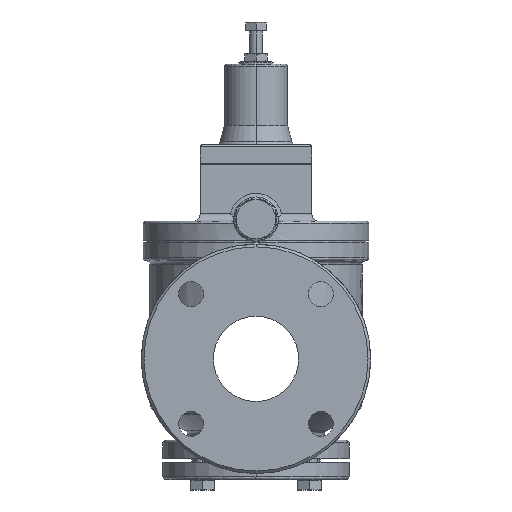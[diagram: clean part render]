
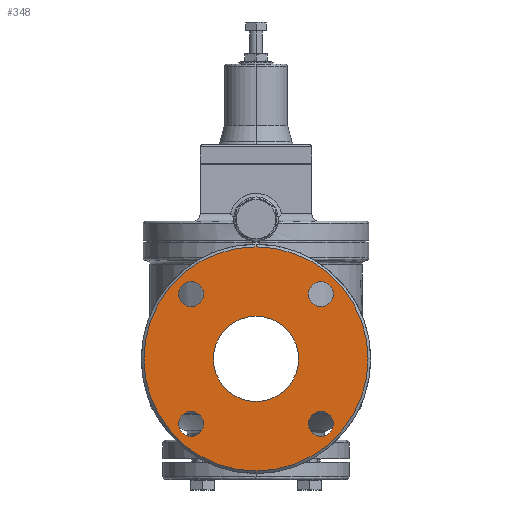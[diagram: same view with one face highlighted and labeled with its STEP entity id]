
A CAD part, left-side view. The second image highlights one B-rep face of the part: STEP entity #348.
In plain terms, the highlighted planar face has unit normal (-1, 0, 0).
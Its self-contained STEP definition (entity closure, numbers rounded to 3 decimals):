
#348=ADVANCED_FACE('',(#1601,#1602,#1603,#1604,#1605,#1606),#1600,.F.);
#1600=PLANE('',#5204);
#1601=FACE_OUTER_BOUND('',#5205,.T.);
#1602=FACE_BOUND('',#5206,.T.);
#1603=FACE_BOUND('',#5207,.T.);
#1604=FACE_BOUND('',#5208,.T.);
#1605=FACE_BOUND('',#5209,.T.);
#1606=FACE_BOUND('',#5210,.T.);
#5201=CARTESIAN_POINT('',(-345.221,-158.09,-107.85));
#5202=DIRECTION('',(1.,0.,0.));
#5203=DIRECTION('',(0.,0.,-1.));
#5204=AXIS2_PLACEMENT_3D('',#5201,#5202,#5203);
#5205=EDGE_LOOP('',(#8285,#8286));
#5206=EDGE_LOOP('',(#8287,#8288));
#5207=EDGE_LOOP('',(#8289,#8290));
#5208=EDGE_LOOP('',(#8291,#8292));
#5209=EDGE_LOOP('',(#8293,#8294));
#5210=EDGE_LOOP('',(#8295,#8296));
#8285=ORIENTED_EDGE('',*,*,#9944,.T.);
#8286=ORIENTED_EDGE('',*,*,#9945,.T.);
#8287=ORIENTED_EDGE('',*,*,#9946,.T.);
#8288=ORIENTED_EDGE('',*,*,#9947,.T.);
#8289=ORIENTED_EDGE('',*,*,#9948,.T.);
#8290=ORIENTED_EDGE('',*,*,#9949,.T.);
#8291=ORIENTED_EDGE('',*,*,#9950,.T.);
#8292=ORIENTED_EDGE('',*,*,#9951,.T.);
#8293=ORIENTED_EDGE('',*,*,#9952,.T.);
#8294=ORIENTED_EDGE('',*,*,#9953,.T.);
#8295=ORIENTED_EDGE('',*,*,#9954,.T.);
#8296=ORIENTED_EDGE('',*,*,#9955,.T.);
#9944=EDGE_CURVE('',#13343,#13344,#13345,.T.);
#9945=EDGE_CURVE('',#13344,#13343,#13351,.T.);
#9946=EDGE_CURVE('',#13357,#13358,#13359,.T.);
#9947=EDGE_CURVE('',#13358,#13357,#13365,.T.);
#9948=EDGE_CURVE('',#13371,#13372,#13373,.T.);
#9949=EDGE_CURVE('',#13372,#13371,#13379,.T.);
#9950=EDGE_CURVE('',#13385,#13386,#13387,.T.);
#9951=EDGE_CURVE('',#13386,#13385,#13393,.T.);
#9952=EDGE_CURVE('',#13399,#13400,#13401,.T.);
#9953=EDGE_CURVE('',#13400,#13399,#13407,.T.);
#9954=EDGE_CURVE('',#13413,#13414,#13415,.T.);
#9955=EDGE_CURVE('',#13414,#13413,#13421,.T.);
#13343=VERTEX_POINT('',#19772);
#13344=VERTEX_POINT('',#19773);
#13345=CIRCLE('',#19777,85.5);
#13351=CIRCLE('',#19781,85.5);
#13357=VERTEX_POINT('',#19782);
#13358=VERTEX_POINT('',#19783);
#13359=CIRCLE('',#19787,9.5);
#13365=CIRCLE('',#19791,9.5);
#13371=VERTEX_POINT('',#19792);
#13372=VERTEX_POINT('',#19793);
#13373=CIRCLE('',#19797,9.5);
#13379=CIRCLE('',#19801,9.5);
#13385=VERTEX_POINT('',#19802);
#13386=VERTEX_POINT('',#19803);
#13387=CIRCLE('',#19807,9.5);
#13393=CIRCLE('',#19811,9.5);
#13399=VERTEX_POINT('',#19812);
#13400=VERTEX_POINT('',#19813);
#13401=CIRCLE('',#19817,32.5);
#13407=CIRCLE('',#19821,32.5);
#13413=VERTEX_POINT('',#19822);
#13414=VERTEX_POINT('',#19823);
#13415=CIRCLE('',#19827,9.5);
#13421=CIRCLE('',#19831,9.5);
#19772=CARTESIAN_POINT('',(-345.221,0.,-117.85));
#19773=CARTESIAN_POINT('',(-345.221,0.,-288.849));
#19774=CARTESIAN_POINT('',(-345.221,0.,-203.35));
#19775=DIRECTION('',(-1.,0.,0.));
#19776=DIRECTION('',(0.,0.,1.));
#19777=AXIS2_PLACEMENT_3D('',#19774,#19775,#19776);
#19778=CARTESIAN_POINT('',(-345.221,0.,-203.35));
#19779=DIRECTION('',(-1.,0.,0.));
#19780=DIRECTION('',(0.,0.,1.));
#19781=AXIS2_PLACEMENT_3D('',#19778,#19779,#19780);
#19782=CARTESIAN_POINT('',(-345.221,-49.497,-144.352));
#19783=CARTESIAN_POINT('',(-345.221,-49.497,-163.352));
#19784=CARTESIAN_POINT('',(-345.221,-49.497,-153.852));
#19785=DIRECTION('',(1.,0.,0.));
#19786=DIRECTION('',(0.,0.,1.));
#19787=AXIS2_PLACEMENT_3D('',#19784,#19785,#19786);
#19788=CARTESIAN_POINT('',(-345.221,-49.497,-153.852));
#19789=DIRECTION('',(1.,0.,0.));
#19790=DIRECTION('',(0.,0.,1.));
#19791=AXIS2_PLACEMENT_3D('',#19788,#19789,#19790);
#19792=CARTESIAN_POINT('',(-345.221,49.497,-144.352));
#19793=CARTESIAN_POINT('',(-345.221,49.497,-163.352));
#19794=CARTESIAN_POINT('',(-345.221,49.497,-153.852));
#19795=DIRECTION('',(1.,0.,0.));
#19796=DIRECTION('',(0.,0.,1.));
#19797=AXIS2_PLACEMENT_3D('',#19794,#19795,#19796);
#19798=CARTESIAN_POINT('',(-345.221,49.497,-153.852));
#19799=DIRECTION('',(1.,0.,0.));
#19800=DIRECTION('',(0.,0.,1.));
#19801=AXIS2_PLACEMENT_3D('',#19798,#19799,#19800);
#19802=CARTESIAN_POINT('',(-345.221,49.497,-243.347));
#19803=CARTESIAN_POINT('',(-345.221,49.497,-262.347));
#19804=CARTESIAN_POINT('',(-345.221,49.497,-252.847));
#19805=DIRECTION('',(1.,0.,0.));
#19806=DIRECTION('',(0.,0.,1.));
#19807=AXIS2_PLACEMENT_3D('',#19804,#19805,#19806);
#19808=CARTESIAN_POINT('',(-345.221,49.497,-252.847));
#19809=DIRECTION('',(1.,0.,0.));
#19810=DIRECTION('',(0.,0.,1.));
#19811=AXIS2_PLACEMENT_3D('',#19808,#19809,#19810);
#19812=CARTESIAN_POINT('',(-345.221,0.,-170.85));
#19813=CARTESIAN_POINT('',(-345.221,0.,-235.85));
#19814=CARTESIAN_POINT('',(-345.221,0.,-203.35));
#19815=DIRECTION('',(1.,0.,0.));
#19816=DIRECTION('',(0.,0.,1.));
#19817=AXIS2_PLACEMENT_3D('',#19814,#19815,#19816);
#19818=CARTESIAN_POINT('',(-345.221,0.,-203.35));
#19819=DIRECTION('',(1.,0.,0.));
#19820=DIRECTION('',(0.,0.,1.));
#19821=AXIS2_PLACEMENT_3D('',#19818,#19819,#19820);
#19822=CARTESIAN_POINT('',(-345.221,-49.497,-243.347));
#19823=CARTESIAN_POINT('',(-345.221,-49.497,-262.347));
#19824=CARTESIAN_POINT('',(-345.221,-49.497,-252.847));
#19825=DIRECTION('',(1.,0.,0.));
#19826=DIRECTION('',(0.,0.,1.));
#19827=AXIS2_PLACEMENT_3D('',#19824,#19825,#19826);
#19828=CARTESIAN_POINT('',(-345.221,-49.497,-252.847));
#19829=DIRECTION('',(1.,0.,0.));
#19830=DIRECTION('',(0.,0.,1.));
#19831=AXIS2_PLACEMENT_3D('',#19828,#19829,#19830);
